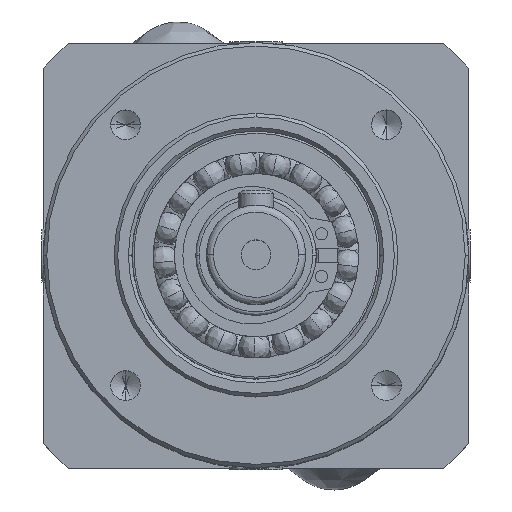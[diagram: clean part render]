
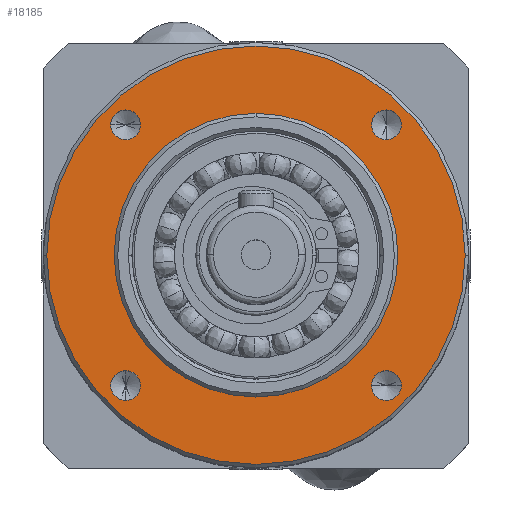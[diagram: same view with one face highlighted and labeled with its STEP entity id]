
A CAD part, top view. The second image highlights one B-rep face of the part: STEP entity #18185.
In plain terms, the highlighted planar face has unit normal (0, 0, 1) as drawn and (1, 0, 0) by its records, which use the part's own axes.
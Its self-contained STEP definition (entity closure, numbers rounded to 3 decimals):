
#443 = ORIENTED_EDGE ( 'NONE', *, *, #18771, .F. ) ;
#713 = AXIS2_PLACEMENT_3D ( 'NONE', #10817, #10828, #10847 ) ;
#913 = AXIS2_PLACEMENT_3D ( 'NONE', #21258, #5103, #23917 ) ;
#2674 = CARTESIAN_POINT ( 'NONE',  ( 25., 0., -29.5 ) ) ;
#2812 = VERTEX_POINT ( 'NONE', #5899 ) ;
#3027 = ORIENTED_EDGE ( 'NONE', *, *, #28737, .F. ) ;
#3639 = CIRCLE ( 'NONE', #713, 20. ) ;
#3761 = CARTESIAN_POINT ( 'NONE',  ( 25., 0., 29.5 ) ) ;
#4256 = CIRCLE ( 'NONE', #6821, 2.1 ) ;
#4273 = VERTEX_POINT ( 'NONE', #2674 ) ;
#5103 = DIRECTION ( 'NONE',  ( 1., 0., 0. ) ) ;
#5899 = CARTESIAN_POINT ( 'NONE',  ( 25., -18.385, -20.485 ) ) ;
#6356 = CARTESIAN_POINT ( 'NONE',  ( 25., -16.285, 18.385 ) ) ;
#6821 = AXIS2_PLACEMENT_3D ( 'NONE', #7102, #7137, #7147 ) ;
#7102 = CARTESIAN_POINT ( 'NONE',  ( 25., 18.385, -18.385 ) ) ;
#7112 = VERTEX_POINT ( 'NONE', #30053 ) ;
#7137 = DIRECTION ( 'NONE',  ( 1., 0., 0. ) ) ;
#7147 = DIRECTION ( 'NONE',  ( 0., 1., 0. ) ) ;
#7527 = DIRECTION ( 'NONE',  ( 1., 0., 0. ) ) ;
#7729 = CIRCLE ( 'NONE', #29228, 2.1 ) ;
#7948 = DIRECTION ( 'NONE',  ( 1., 0., 0. ) ) ;
#8342 = ORIENTED_EDGE ( 'NONE', *, *, #17535, .T. ) ;
#8544 = EDGE_LOOP ( 'NONE', ( #23011, #19746 ) ) ;
#8671 = CIRCLE ( 'NONE', #17468, 2.1 ) ;
#9091 = VERTEX_POINT ( 'NONE', #6356 ) ;
#9645 = CARTESIAN_POINT ( 'NONE',  ( 25., 18.385, 18.385 ) ) ;
#9714 = CARTESIAN_POINT ( 'NONE',  ( 25., 0., 0. ) ) ;
#9778 = DIRECTION ( 'NONE',  ( 1., 0., 0. ) ) ;
#9786 = DIRECTION ( 'NONE',  ( 0., 0., 1. ) ) ;
#10182 = FACE_BOUND ( 'NONE', #8544, .T. ) ;
#10216 = FACE_BOUND ( 'NONE', #32254, .T. ) ;
#10344 = FACE_OUTER_BOUND ( 'NONE', #29805, .T. ) ;
#10421 = FACE_BOUND ( 'NONE', #31744, .T. ) ;
#10701 = FACE_BOUND ( 'NONE', #32109, .T. ) ;
#10791 = ORIENTED_EDGE ( 'NONE', *, *, #19812, .F. ) ;
#10817 = CARTESIAN_POINT ( 'NONE',  ( 25., 0., 0. ) ) ;
#10828 = DIRECTION ( 'NONE',  ( 1., 0., 0. ) ) ;
#10847 = DIRECTION ( 'NONE',  ( 0., 0., 1. ) ) ;
#10947 = AXIS2_PLACEMENT_3D ( 'NONE', #19754, #19896, #19939 ) ;
#11380 = CIRCLE ( 'NONE', #31854, 2.1 ) ;
#12197 = CARTESIAN_POINT ( 'NONE',  ( 25., 0., 20. ) ) ;
#12203 = CARTESIAN_POINT ( 'NONE',  ( 25., -18.385, 18.385 ) ) ;
#12351 = CIRCLE ( 'NONE', #913, 2.1 ) ;
#12422 = DIRECTION ( 'NONE',  ( 0., 0., -1. ) ) ;
#12581 = CIRCLE ( 'NONE', #33751, 29.5 ) ;
#13017 = VERTEX_POINT ( 'NONE', #25796 ) ;
#13671 = CARTESIAN_POINT ( 'NONE',  ( 25., 0., 0. ) ) ;
#14319 = ORIENTED_EDGE ( 'NONE', *, *, #23978, .F. ) ;
#14491 = CARTESIAN_POINT ( 'NONE',  ( 25., 18.385, 18.385 ) ) ;
#14532 = DIRECTION ( 'NONE',  ( 1., 0., 0. ) ) ;
#14595 = DIRECTION ( 'NONE',  ( 0., 0., -1. ) ) ;
#14780 = VERTEX_POINT ( 'NONE', #18031 ) ;
#14918 = DIRECTION ( 'NONE',  ( 0., 1., 0. ) ) ;
#15519 = VERTEX_POINT ( 'NONE', #31173 ) ;
#16249 = CIRCLE ( 'NONE', #26011, 29.5 ) ;
#16331 = DIRECTION ( 'NONE',  ( 0., 0., 1. ) ) ;
#16822 = ORIENTED_EDGE ( 'NONE', *, *, #31480, .F. ) ;
#17339 = AXIS2_PLACEMENT_3D ( 'NONE', #12203, #30759, #14918 ) ;
#17468 = AXIS2_PLACEMENT_3D ( 'NONE', #24196, #24231, #24237 ) ;
#17535 = EDGE_CURVE ( 'NONE', #4273, #19841, #12581, .T. ) ;
#17633 = CIRCLE ( 'NONE', #24978, 20. ) ;
#17676 = CIRCLE ( 'NONE', #17339, 2.1 ) ;
#17717 = CARTESIAN_POINT ( 'NONE',  ( 25., 16.285, -18.385 ) ) ;
#17860 = CIRCLE ( 'NONE', #25022, 2.1 ) ;
#17938 = EDGE_CURVE ( 'NONE', #25311, #7112, #11380, .T. ) ;
#18031 = CARTESIAN_POINT ( 'NONE',  ( 25., 0., -20. ) ) ;
#18039 = VERTEX_POINT ( 'NONE', #17717 ) ;
#18185 = ADVANCED_FACE ( 'NONE', ( #29337, #10701, #10421, #10216, #10182, #10344 ), #19871, .F. ) ;
#18196 = ORIENTED_EDGE ( 'NONE', *, *, #19605, .F. ) ;
#18473 = EDGE_CURVE ( 'NONE', #9091, #15519, #8671, .T. ) ;
#18611 = ORIENTED_EDGE ( 'NONE', *, *, #18473, .F. ) ;
#18771 = EDGE_CURVE ( 'NONE', #2812, #27376, #7729, .T. ) ;
#19605 = EDGE_CURVE ( 'NONE', #13017, #18039, #4256, .T. ) ;
#19746 = ORIENTED_EDGE ( 'NONE', *, *, #33531, .F. ) ;
#19754 = CARTESIAN_POINT ( 'NONE',  ( 25., -29.854, -29.854 ) ) ;
#19812 = EDGE_CURVE ( 'NONE', #21412, #14780, #3639, .T. ) ;
#19841 = VERTEX_POINT ( 'NONE', #3761 ) ;
#19871 = PLANE ( 'NONE',  #10947 ) ;
#19896 = DIRECTION ( 'NONE',  ( -1., 0., 0. ) ) ;
#19939 = DIRECTION ( 'NONE',  ( 0., 0., 1. ) ) ;
#21258 = CARTESIAN_POINT ( 'NONE',  ( 25., -18.385, -18.385 ) ) ;
#21353 = CIRCLE ( 'NONE', #24337, 2.1 ) ;
#21412 = VERTEX_POINT ( 'NONE', #12197 ) ;
#22050 = EDGE_CURVE ( 'NONE', #19841, #4273, #16249, .T. ) ;
#23011 = ORIENTED_EDGE ( 'NONE', *, *, #17938, .F. ) ;
#23616 = CARTESIAN_POINT ( 'NONE',  ( 25., 18.385, -18.385 ) ) ;
#23917 = DIRECTION ( 'NONE',  ( 0., 0., -1. ) ) ;
#23978 = EDGE_CURVE ( 'NONE', #14780, #21412, #17633, .T. ) ;
#24033 = CARTESIAN_POINT ( 'NONE',  ( 25., 0., 0. ) ) ;
#24196 = CARTESIAN_POINT ( 'NONE',  ( 25., -18.385, 18.385 ) ) ;
#24231 = DIRECTION ( 'NONE',  ( 1., 0., 0. ) ) ;
#24237 = DIRECTION ( 'NONE',  ( 0., 1., 0. ) ) ;
#24271 = ORIENTED_EDGE ( 'NONE', *, *, #26404, .F. ) ;
#24337 = AXIS2_PLACEMENT_3D ( 'NONE', #9645, #28304, #12422 ) ;
#24978 = AXIS2_PLACEMENT_3D ( 'NONE', #13671, #32178, #16331 ) ;
#25022 = AXIS2_PLACEMENT_3D ( 'NONE', #23616, #7527, #26296 ) ;
#25311 = VERTEX_POINT ( 'NONE', #33869 ) ;
#25796 = CARTESIAN_POINT ( 'NONE',  ( 25., 20.485, -18.385 ) ) ;
#25977 = CARTESIAN_POINT ( 'NONE',  ( 25., -18.385, -16.285 ) ) ;
#26011 = AXIS2_PLACEMENT_3D ( 'NONE', #24033, #7948, #26700 ) ;
#26296 = DIRECTION ( 'NONE',  ( 0., 1., 0. ) ) ;
#26404 = EDGE_CURVE ( 'NONE', #18039, #13017, #17860, .T. ) ;
#26700 = DIRECTION ( 'NONE',  ( 0., 0., 1. ) ) ;
#27376 = VERTEX_POINT ( 'NONE', #25977 ) ;
#28304 = DIRECTION ( 'NONE',  ( 1., 0., 0. ) ) ;
#28737 = EDGE_CURVE ( 'NONE', #27376, #2812, #12351, .T. ) ;
#29228 = AXIS2_PLACEMENT_3D ( 'NONE', #29981, #30025, #30055 ) ;
#29337 = FACE_BOUND ( 'NONE', #29912, .T. ) ;
#29805 = EDGE_LOOP ( 'NONE', ( #31483, #8342 ) ) ;
#29912 = EDGE_LOOP ( 'NONE', ( #10791, #14319 ) ) ;
#29981 = CARTESIAN_POINT ( 'NONE',  ( 25., -18.385, -18.385 ) ) ;
#30025 = DIRECTION ( 'NONE',  ( 1., 0., 0. ) ) ;
#30053 = CARTESIAN_POINT ( 'NONE',  ( 25., 18.385, 20.485 ) ) ;
#30055 = DIRECTION ( 'NONE',  ( 0., 0., -1. ) ) ;
#30759 = DIRECTION ( 'NONE',  ( 1., 0., 0. ) ) ;
#31173 = CARTESIAN_POINT ( 'NONE',  ( 25., -20.485, 18.385 ) ) ;
#31480 = EDGE_CURVE ( 'NONE', #15519, #9091, #17676, .T. ) ;
#31483 = ORIENTED_EDGE ( 'NONE', *, *, #22050, .T. ) ;
#31744 = EDGE_LOOP ( 'NONE', ( #443, #3027 ) ) ;
#31854 = AXIS2_PLACEMENT_3D ( 'NONE', #14491, #14532, #14595 ) ;
#32109 = EDGE_LOOP ( 'NONE', ( #18196, #24271 ) ) ;
#32178 = DIRECTION ( 'NONE',  ( 1., 0., 0. ) ) ;
#32254 = EDGE_LOOP ( 'NONE', ( #18611, #16822 ) ) ;
#33531 = EDGE_CURVE ( 'NONE', #7112, #25311, #21353, .T. ) ;
#33751 = AXIS2_PLACEMENT_3D ( 'NONE', #9714, #9778, #9786 ) ;
#33869 = CARTESIAN_POINT ( 'NONE',  ( 25., 18.385, 16.285 ) ) ;
